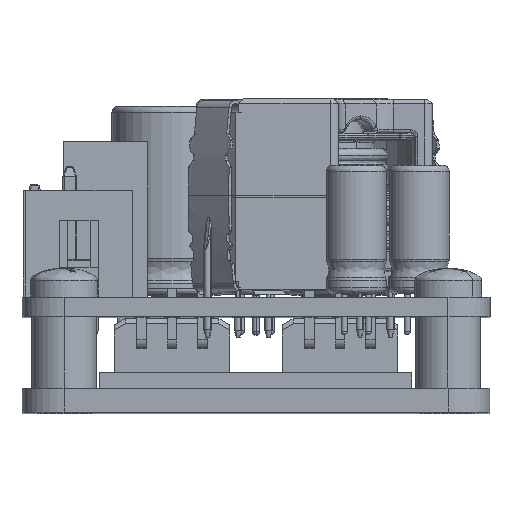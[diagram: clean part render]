
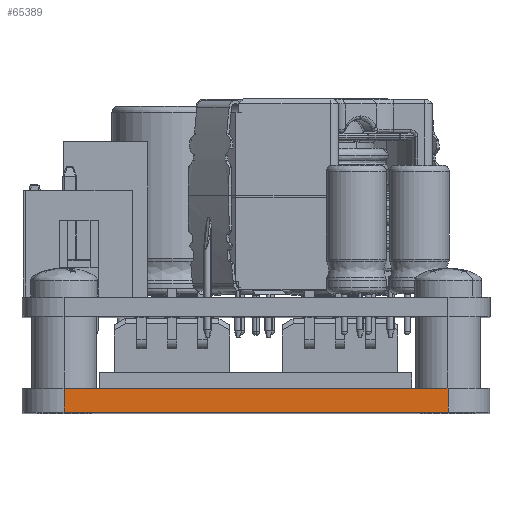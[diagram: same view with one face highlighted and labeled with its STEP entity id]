
A CAD part, top view. The second image highlights one B-rep face of the part: STEP entity #65389.
In plain terms, the highlighted planar face has unit normal (0, 0, 1).
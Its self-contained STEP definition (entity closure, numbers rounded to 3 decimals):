
#1013 = EDGE_CURVE ( 'NONE', #8078, #50512, #52126, .T. ) ;
#2840 = ORIENTED_EDGE ( 'NONE', *, *, #1013, .F. ) ;
#6168 = DIRECTION ( 'NONE',  ( 0., -1., 0. ) ) ;
#6619 = FACE_OUTER_BOUND ( 'NONE', #61208, .T. ) ;
#8078 = VERTEX_POINT ( 'NONE', #11979 ) ;
#8111 = CARTESIAN_POINT ( 'NONE',  ( 16., 0., 42.5 ) ) ;
#9300 = ORIENTED_EDGE ( 'NONE', *, *, #64005, .F. ) ;
#11263 = ORIENTED_EDGE ( 'NONE', *, *, #44715, .T. ) ;
#11451 = CARTESIAN_POINT ( 'NONE',  ( 16., 2., 42.5 ) ) ;
#11979 = CARTESIAN_POINT ( 'NONE',  ( -16., 2., 42.5 ) ) ;
#14753 = DIRECTION ( 'NONE',  ( 1., 0., 0. ) ) ;
#17092 = CARTESIAN_POINT ( 'NONE',  ( -16., 0., 42.5 ) ) ;
#21408 = LINE ( 'NONE', #11451, #47659 ) ;
#26923 = CARTESIAN_POINT ( 'NONE',  ( 16., 2., 42.5 ) ) ;
#27108 = DIRECTION ( 'NONE',  ( 0., 0., -1. ) ) ;
#27878 = DIRECTION ( 'NONE',  ( -1., 0., 0. ) ) ;
#28858 = VERTEX_POINT ( 'NONE', #8111 ) ;
#29778 = ORIENTED_EDGE ( 'NONE', *, *, #68080, .T. ) ;
#32966 = PLANE ( 'NONE',  #67298 ) ;
#35079 = CARTESIAN_POINT ( 'NONE',  ( -16., 2., 42.5 ) ) ;
#42205 = VECTOR ( 'NONE', #63462, 1000. ) ;
#42317 = VECTOR ( 'NONE', #63283, 1000. ) ;
#43262 = LINE ( 'NONE', #54967, #60387 ) ;
#44715 = EDGE_CURVE ( 'NONE', #55882, #28858, #43262, .T. ) ;
#47659 = VECTOR ( 'NONE', #6168, 1000. ) ;
#50512 = VERTEX_POINT ( 'NONE', #26923 ) ;
#52126 = LINE ( 'NONE', #63205, #42205 ) ;
#54967 = CARTESIAN_POINT ( 'NONE',  ( -16., 0., 42.5 ) ) ;
#55882 = VERTEX_POINT ( 'NONE', #17092 ) ;
#60387 = VECTOR ( 'NONE', #14753, 1000. ) ;
#61208 = EDGE_LOOP ( 'NONE', ( #11263, #9300, #2840, #29778 ) ) ;
#61699 = CARTESIAN_POINT ( 'NONE',  ( -16., 2., 42.5 ) ) ;
#63205 = CARTESIAN_POINT ( 'NONE',  ( -16., 2., 42.5 ) ) ;
#63283 = DIRECTION ( 'NONE',  ( 0., -1., 0. ) ) ;
#63462 = DIRECTION ( 'NONE',  ( 1., 0., 0. ) ) ;
#64005 = EDGE_CURVE ( 'NONE', #50512, #28858, #21408, .T. ) ;
#65389 = ADVANCED_FACE ( 'NONE', ( #6619 ), #32966, .F. ) ;
#67298 = AXIS2_PLACEMENT_3D ( 'NONE', #61699, #27108, #27878 ) ;
#68080 = EDGE_CURVE ( 'NONE', #8078, #55882, #72941, .T. ) ;
#72941 = LINE ( 'NONE', #35079, #42317 ) ;
